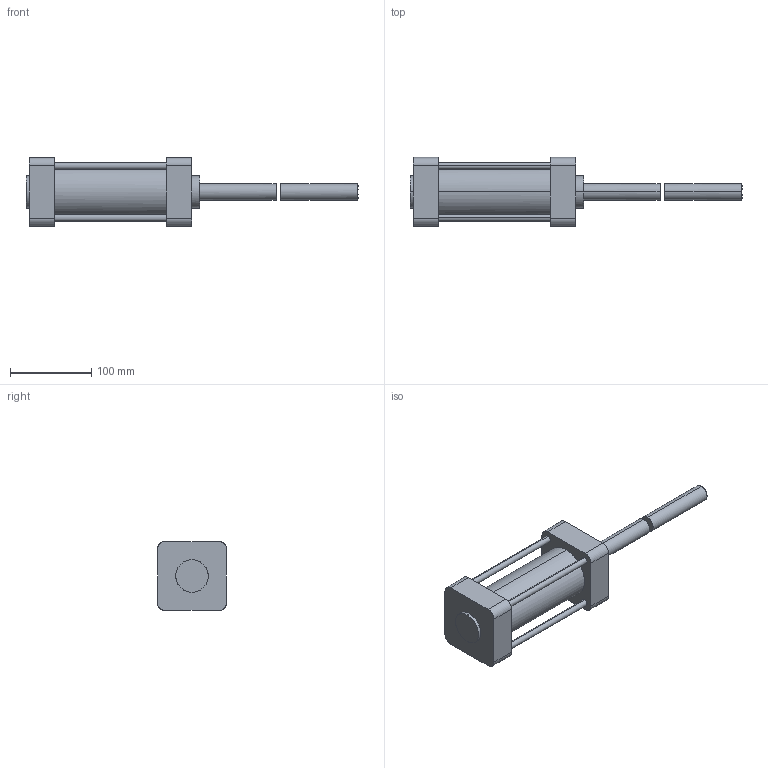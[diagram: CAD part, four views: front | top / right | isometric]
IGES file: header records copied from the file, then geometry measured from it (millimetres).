
Global section: file name: E:\UnigraphicsGraphicData\MISUMI_PRESS-PARTS\IGES\3d_lthct63-100_04294_r00.igs; native system: NX V5.0; preprocessor: UGS NX IGES V5.0; author: MISUMI; date: 20110105.161246; units: millimetre
Bounding box: 409 x 85 x 85 mm (x, y, z)
Surface area: 98442.6 mm2 (no closed solid volume)
Topology: 0 solids, 0 shells, 71 faces, 584 edges, 584 vertices
Faces by surface type: bspline 71
